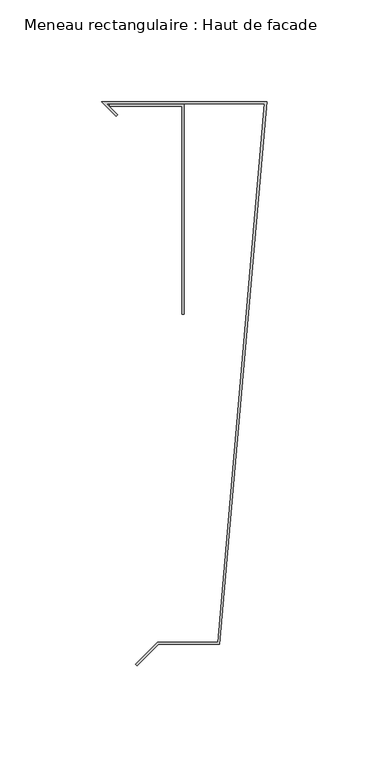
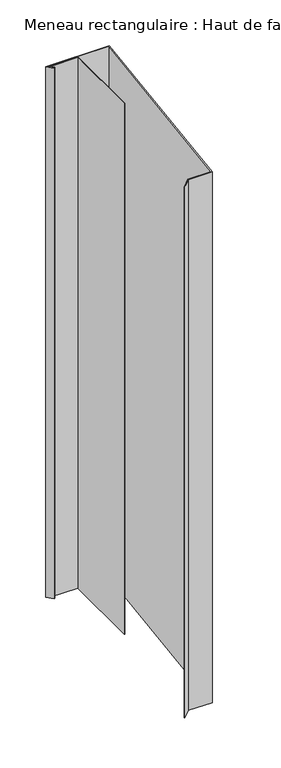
"""IFC4 building model written with IfcOpenShell, lengths in millimetres: member geometry, Meneau rectangulaire : Haut de facade."""

import ifcopenshell
import ifcopenshell.guid

model = None  # the IFC model being written
_history = None  # IfcOwnerHistory: only IFC2X3 demands one
_inside = {}  # id of a spatial element -> (the spatial element, [elements in it])
_under = {}  # id of a project, library or spatial element -> (it, [spatial elements below it])
_declared = {}  # id of a project -> (the project, [libraries it declares])
_typed = {}  # id of a type object -> (the type object, [elements of that type])
_made_of = {}  # id of a material, layer set ... -> (it, [elements and type objects made of it])


def new_model(schema):
    """Start an empty IFC model of exactly this schema.

    Asked for "IFC4X3", IfcOpenShell would pick the latest addendum, in which some entities
    have other attributes; the version numbers below select the first issue.
    IFC2X3 requires an IfcOwnerHistory on every rooted entity: one is made here for all.
    """
    global model, _history
    if schema == "IFC4X3":
        model = ifcopenshell.file(schema_version=(4, 3, 0, 0))
    else:
        model = ifcopenshell.file(schema=schema)
    _inside.clear()
    _under.clear()
    _declared.clear()
    _typed.clear()
    _made_of.clear()
    _history = None
    if model.schema == "IFC2X3":
        org = make("IfcOrganization", Name="unknown")
        user = make(
            "IfcPersonAndOrganization",
            ThePerson=make("IfcPerson", FamilyName="unknown"),
            TheOrganization=org,
        )
        app = make(
            "IfcApplication",
            ApplicationDeveloper=org,
            Version="unknown",
            ApplicationFullName="unknown",
            ApplicationIdentifier="unknown",
        )
        _history = make(
            "IfcOwnerHistory",
            OwningUser=user,
            OwningApplication=app,
            ChangeAction="ADDED",
            CreationDate=0,
        )
    return model


def make(cls, **values):
    """One entity of the class cls with the attributes given. An attribute that is None is left unset."""
    return model.create_entity(
        cls, **{name: value for name, value in values.items() if value is not None}
    )


def rooted(cls, **values):
    """An entity with a GlobalId (a new one), such as an element, a storey or a relation."""
    return make(cls, GlobalId=ifcopenshell.guid.new(), OwnerHistory=_history, **values)


def si_unit(unit_type, name, prefix=None):
    """IfcSIUnit, for example si_unit("LENGTHUNIT", "METRE", prefix="MILLI")."""
    return make("IfcSIUnit", UnitType=unit_type, Prefix=prefix, Name=name)


def assignment(units):
    """IfcUnitAssignment: the units of a project."""
    return None if units is None else make("IfcUnitAssignment", Units=units)


def point(xyz):
    """IfcCartesianPoint."""
    return None if xyz is None else make("IfcCartesianPoint", Coordinates=xyz)


def direction(xyz):
    """IfcDirection."""
    return None if xyz is None else make("IfcDirection", DirectionRatios=xyz)


def frame(location, z_axis=None, x_axis=None):
    """IfcAxis2Placement3D, a coordinate frame: its origin and axes. An axis left out is left unset."""
    return make(
        "IfcAxis2Placement3D",
        Location=point(location),
        Axis=direction(z_axis),
        RefDirection=direction(x_axis),
    )


def origin():
    """The frame at (0, 0, 0) with its axes left unset."""
    return frame((0.0, 0.0, 0.0))


def place(relative_to, where):
    """IfcLocalPlacement: puts the frame where relative to a parent placement (None: the world)."""
    return make(
        "IfcLocalPlacement", PlacementRelTo=relative_to, RelativePlacement=where
    )


def context(
    kind, dimensions, precision=None, world=None, true_north=None, identifier=None
):
    """IfcGeometricRepresentationContext, for example the 3D "Model" context."""
    return make(
        "IfcGeometricRepresentationContext",
        ContextIdentifier=identifier,
        ContextType=kind,
        CoordinateSpaceDimension=dimensions,
        Precision=precision,
        WorldCoordinateSystem=world,
        TrueNorth=true_north,
    )


def project(units=None, contexts=None):
    """IfcProject with its units and contexts."""
    return rooted(
        "IfcProject",
        Name="project",
        RepresentationContexts=contexts,
        UnitsInContext=assignment(units),
    )


def spatial(cls, under=None, at=None, **own):
    """A site, building, storey or space (cls), placed at a placement, below another one or the project."""
    s = rooted(cls, ObjectPlacement=at, **own)
    if under is not None:
        _under.setdefault(under.id(), (under, []))[1].append(s)
    return s


def polyline(points):
    """IfcPolyline through the points."""
    return make("IfcPolyline", Points=[point(p) for p in points])


def outline(outer, holes=None, kind="AREA"):
    """IfcArbitraryClosedProfileDef: a profile drawn as a closed curve; with holes, ...WithVoids."""
    if holes is None:
        return make("IfcArbitraryClosedProfileDef", ProfileType=kind, OuterCurve=outer)
    return make(
        "IfcArbitraryProfileDefWithVoids",
        ProfileType=kind,
        OuterCurve=outer,
        InnerCurves=holes,
    )


def extrude(swept, where, along, depth):
    """IfcExtrudedAreaSolid: the profile swept, set in the frame where, extruded along a direction by depth."""
    return make(
        "IfcExtrudedAreaSolid",
        SweptArea=swept,
        Position=where,
        ExtrudedDirection=direction(along),
        Depth=depth,
    )


def shape(context_of_items, identifier, shape_type, items):
    """IfcShapeRepresentation: the items that make up one representation, for example the "Body"."""
    return make(
        "IfcShapeRepresentation",
        ContextOfItems=context_of_items,
        RepresentationIdentifier=identifier,
        RepresentationType=shape_type,
        Items=items,
    )


def source(mapping_origin, context_of_items, identifier, shape_type, items):
    """IfcRepresentationMap: a shape defined once, which mapped items show again and again."""
    return make(
        "IfcRepresentationMap",
        MappingOrigin=mapping_origin,
        MappedRepresentation=shape(context_of_items, identifier, shape_type, items),
    )


def transform(
    local_origin,
    x_axis=None,
    y_axis=None,
    z_axis=None,
    scale=None,
    scale2=None,
    scale3=None,
    uniform=True,
):
    """IfcCartesianTransformationOperator3D, or its non-uniform kind. x_axis, y_axis, z_axis: its Axis1, 2, 3."""
    if uniform:
        return make(
            "IfcCartesianTransformationOperator3D",
            Axis1=direction(x_axis),
            Axis2=direction(y_axis),
            LocalOrigin=point(local_origin),
            Scale=scale,
            Axis3=direction(z_axis),
        )
    return make(
        "IfcCartesianTransformationOperator3DnonUniform",
        Axis1=direction(x_axis),
        Axis2=direction(y_axis),
        LocalOrigin=point(local_origin),
        Scale=scale,
        Axis3=direction(z_axis),
        Scale2=scale2,
        Scale3=scale3,
    )


def mapped(mapping_source, mapping_target):
    """IfcMappedItem: shows the shape of a source again, moved by a transform."""
    return make(
        "IfcMappedItem", MappingSource=mapping_source, MappingTarget=mapping_target
    )


def made_of(thing, what):
    """Note that an element or type object is made of a material, layer set ...; save() writes the relation."""
    if what is not None:
        _made_of.setdefault(what.id(), (what, []))[1].append(thing)
    return thing


def element(
    cls,
    number,
    at=None,
    inside=None,
    cuts=None,
    type_object=None,
    material=None,
    context=None,
    identifier="Body",
    shape_type=None,
    held_by="IfcProductDefinitionShape",
    body=None,
    shapes=None,
    **own,
):
    """One element of the class cls, such as IfcWall. Its Tag is "e" and its number.

    at: its placement. inside: the storey or other place that contains it. cuts: it is an
    opening in that element (IfcRelVoidsElement). A single representation is given by context,
    identifier, shape_type and body (its items); several are given by shapes. held_by: the class
    of the entity that holds the representations. save() writes the other relations.
    """
    e = rooted(cls, Tag="e%d" % number, ObjectPlacement=at, **own)
    if body is not None:
        shapes = [shape(context, identifier, shape_type, body)]
    if shapes is not None:
        e.Representation = make(held_by, Representations=shapes)
    if inside is not None:
        _inside.setdefault(inside.id(), (inside, []))[1].append(e)
    if cuts is not None:
        rooted(
            "IfcRelVoidsElement", RelatingBuildingElement=cuts, RelatedOpeningElement=e
        )
    if type_object is not None:
        _typed.setdefault(type_object.id(), (type_object, []))[1].append(e)
    return made_of(e, material)


def aggregate(whole, parts):
    """IfcRelAggregates: a whole, such as a stair, and the parts it consists of."""
    return rooted("IfcRelAggregates", RelatingObject=whole, RelatedObjects=parts)


def save(model, path):
    """Write the relations noted so far, then the file.

    IfcRelAggregates (storeys below a building ...), IfcRelContainedInSpatialStructure (elements
    in a storey), IfcRelDefinesByType, IfcRelAssociatesMaterial and IfcRelDeclares: one each for
    every whole, place, type object, material and project.
    """
    for whole, parts in _under.values():
        aggregate(whole, parts)
    for where, things in _inside.values():
        rooted(
            "IfcRelContainedInSpatialStructure",
            RelatedElements=things,
            RelatingStructure=where,
        )
    for kind, things in _typed.values():
        rooted("IfcRelDefinesByType", RelatedObjects=things, RelatingType=kind)
    for what, things in _made_of.values():
        rooted("IfcRelAssociatesMaterial", RelatedObjects=things, RelatingMaterial=what)
    for by, libraries in _declared.values():
        rooted("IfcRelDeclares", RelatingContext=by, RelatedDefinitions=libraries)
    model.write(path)


def meneau_rectangulaire_haut_de_facade_c783611b(model_context):
    return source(origin(), model_context, "Body", "SweptSolid", [
        extrude(outline(polyline([(-24.0647895, -160.703755), (-1.0913085, 103.2), (-78.5857864, 103.2), (-73.2218254, 97.836039), (-73.9289322, 97.1289322), (-81.0, 104.2), (0.0, 104.2), (-23.1484584, -161.703755), (-53.1484584, -161.703755), (-63.7550601, -172.3103567), (-64.4621669, -171.6032499), (-53.5626719, -160.703755), (-24.0647895, -160.703755)])), frame((0.0, 0.0, -712.0), z_axis=(0.0, 0.0, 1.0), x_axis=(1.0, 0.0, 0.0)), (0.0, 0.0, 1.0), 712.0),
        extrude(outline(polyline([(-40.5477541, 102.9846816), (-40.5477541, 0.0384227), (-41.5477541, 0.0384227), (-41.5477541, 101.9846816), (-77.0752814, 101.9846816), (-77.0752814, 102.9846816), (-40.5477541, 102.9846816)])), frame((0.0, 0.0, -712.0), z_axis=(0.0, 0.0, 1.0), x_axis=(1.0, 0.0, 0.0)), (0.0, 0.0, 1.0), 712.0),
    ])


if __name__ == "__main__":
    model = new_model("IFC4")
    model_context = context("Model", 3, world=origin())
    ifc_project = project(units=[si_unit("LENGTHUNIT", "METRE", prefix="MILLI")], contexts=[model_context])
    site = spatial("IfcSite", under=ifc_project)
    building = spatial("IfcBuilding", under=site)
    placement = place(None, origin())
    meneau_rectangulaire_haut_de_facade_shape = meneau_rectangulaire_haut_de_facade_c783611b(model_context)
    element("IfcMember", 1, ObjectType="Meneau rectangulaire : Haut de facade", at=placement, inside=building, context=model_context, shape_type="MappedRepresentation", body=[
        mapped(meneau_rectangulaire_haut_de_facade_shape, transform((0.0, 0.0, 0.0), x_axis=(1.0, 0.0, 0.0), y_axis=(0.0, 1.0, 0.0), z_axis=(0.0, 0.0, 1.0))),
    ])
    save(model, "model.ifc")
